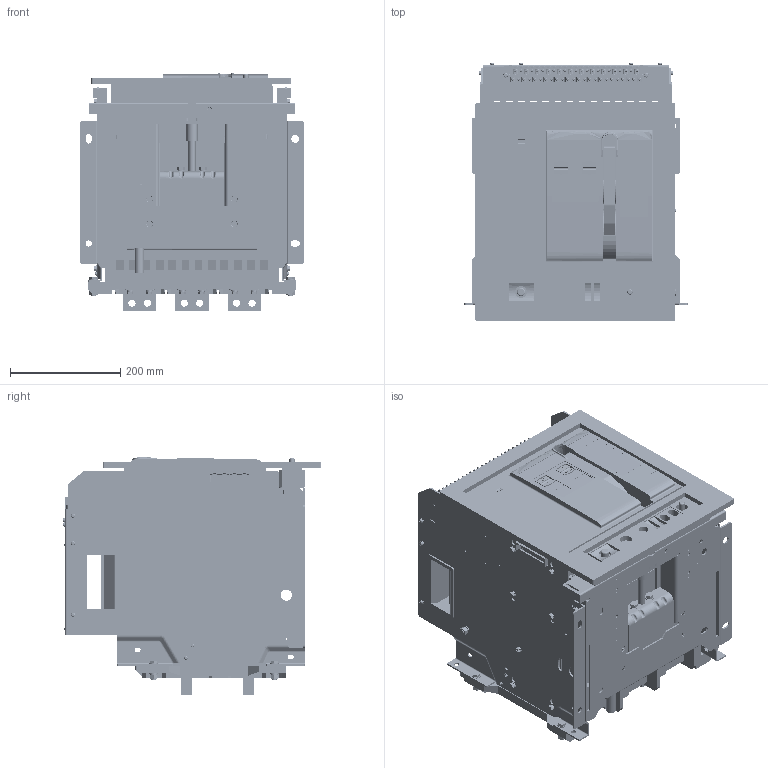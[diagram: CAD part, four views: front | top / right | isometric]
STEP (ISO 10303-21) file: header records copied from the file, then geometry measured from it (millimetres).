
FILE_DESCRIPTION (( 'STEP AP214' ), '1' );
FILE_NAME ('TENGEN_TGW1N-2000_3P_1900A-2000A.STEP', '2026-05-21T09:18:53', ( '' ), ( '' ), 'SwSTEP 2.0', 'SolidWorks 2024', '' );
FILE_SCHEMA (( 'AUTOMOTIVE_DESIGN' ));
Length unit declared in the file: millimetre
Products named in the file (51): 8TZD_282_1272_AF0_7_1_1_1.stp; PRT0030_1_1_1_1_1.stp; 2000ZHAOKE_ASM_1_ASM_1_ASM_1_AS_ASM_1.stp; 8TZD_253_1324_21_1_1_1.stp; PRT0022_1_1_1_1_1.stp; TENGEN_TGW45-2000_0002_ASM_1_AS_ASM_1.stp; 8TZD_253_1322_28_1_1_1.stp; 2000ZHAOKE_ASM_ASM_1_ASM_1_ASM__ASM_1.stp; 8TZD_282_1271_AF1_11_1_1_1.stp; PRT0010_1_1_1_1_1.stp; PRT0021_1_1_1_1_1.stp; 2000A3P-CTSP_ASM_2_ASM_1_ASM_1__ASM_1.stp; PRT0004_1_1_1_1_1.stp; PRT0031_1_1_1_1_1.stp; PRT0028_1_1_1_1_1.stp; PRT0024_1_1_1_1_1.stp; PRT0018_1_1_1_1_1.stp; TENGEN_Рамка_2000_Drawer; PRT0019_1_1_1_1_1.stp; PRT0023_1_1_1_1_1.stp; PRT0014_1_1_1_1_1.stp; PRT0006_1_1_1_1_1.stp; PRT0012_1_1_1_1_1.stp; GB_T9074_4-M6X80_4_1_1_1.stp; MANIFOLD_SOLID_BREP_64659_12_1__1.stp; PRT0015_1_1_1_1_1.stp; ASM0001_ASM_1_ASM_1_ASM_1_ASM_1_ASM_1.stp; PRT0029_1_1_1_1_1.stp; PRT0013_1_1_1_1_1.stp; TENGEN_TGW1N-2000_3P_1900A-2000A; ASM0002_ASM_1_ASM_1_ASM_1_ASM_1_ASM_1.stp; PRT0027_1_1_1_1_1.stp; PRT0005_1_1_1_1_1.stp; PRT0017_1_1_1_1_1.stp; 8TZD_235_1114_34_1_1_1.stp; PRT0026_1_1_1_1_1.stp; 5TZD_005_1023_ASM_23_ASM_1_ASM__ASM_1.stp; PRT0025_1_1_1_1_1.stp; PRT0011_1_1_1_1_1.stp; 8TZD_860_1386_5_1_1_1.stp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
Assembly tree (53 placements, depth 6):
  TENGEN_TGW1N-2000_3P_1900A-2000A
    TENGEN_TGW45-2000_0002_ASM_1_AS_ASM_1.stp
      2000A3P-CTSP_ASM_2_ASM_1_ASM_1__ASM_1.stp
        ASM0001_ASM_1_ASM_1_ASM_1_ASM_1_ASM_1.stp
          ASM0002_ASM_1_ASM_1_ASM_1_ASM_1_ASM_1.stp
            PRT0002_1_1_1_1_1.stp
            PRT0004_1_1_1_1_1.stp
            PRT0005_1_1_1_1_1.stp
            PRT0006_1_1_1_1_1.stp
            PRT0007_1_1_1_1_1.stp
            PRT0008_1_1_1_1_1.stp
            PRT0009_1_1_1_1_1.stp
            PRT0010_1_1_1_1_1.stp
            PRT0011_1_1_1_1_1.stp
            PRT0012_1_1_1_1_1.stp
            PRT0013_1_1_1_1_1.stp
            PRT0014_1_1_1_1_1.stp
            PRT0015_1_1_1_1_1.stp
            PRT0016_1_1_1_1_1.stp
            PRT0017_1_1_1_1_1.stp
            PRT0018_1_1_1_1_1.stp
            PRT0019_1_1_1_1_1.stp
            PRT0020_1_1_1_1_1.stp
            PRT0021_1_1_1_1_1.stp
            PRT0022_1_1_1_1_1.stp
            PRT0023_1_1_1_1_1.stp
            PRT0024_1_1_1_1_1.stp
            PRT0025_1_1_1_1_1.stp
            PRT0026_1_1_1_1_1.stp
            PRT0027_1_1_1_1_1.stp
            PRT0028_1_1_1_1_1.stp
            PRT0029_1_1_1_1_1.stp
            PRT0030_1_1_1_1_1.stp
            PRT0031_1_1_1_1_1.stp
      2000ZHAOKE_ASM_ASM_1_ASM_1_ASM__ASM_1.stp
        2000ZHAOKE_ASM_1_ASM_1_ASM_1_AS_ASM_1.stp
          5TZD_005_1023_ASM_23_ASM_1_ASM__ASM_1.stp
            8TZD_005_1074_85_1_1_1.stp
            8TZD_253_1322_28_1_1_1.stp
            8TZD_282_1272_AF0_7_1_1_1.stp
            8TZD_235_1114_34_1_1_1.stp
            8TZD_282_1271_AF1_11_1_1_1.stp
            8TZD_282_1271_AF2_11_1_1_1.stp
            8TZD_253_1325_22_1_1_1.stp
            8TZD_253_1324_21_1_1_1.stp
            8TZD_321_1011_43_1_1_1.stp
            8TZD_860_1386_5_1_1_1.stp
          8TZD-253-1323_8_1_1_1.stp
          MANIFOLD_SOLID_BREP_64659_12_1__1.stp
          GB_T9074_4-M6X80_4_1_1_1.stp  x4
    TENGEN_Рамка_2000_Drawer
Bounding box: 406 x 469 x 431.42 mm (x, y, z)
Volume: 25984462.4 mm3; surface area: 3659302.3 mm2
Topology: 43 solids, 53 shells, 9670 faces, 25933 edges, 16680 vertices
Faces by surface type: plane 7053, cylinder 1939, bspline 322, torus 197, sphere 84, cone 75
Entity records: 375012 total; most frequent: CARTESIAN_POINT 136679, ORIENTED_EDGE 51062, DIRECTION 46356, EDGE_CURVE 25533, LINE 18070, VECTOR 18070, VERTEX_POINT 16512, AXIS2_PLACEMENT_3D 14143
